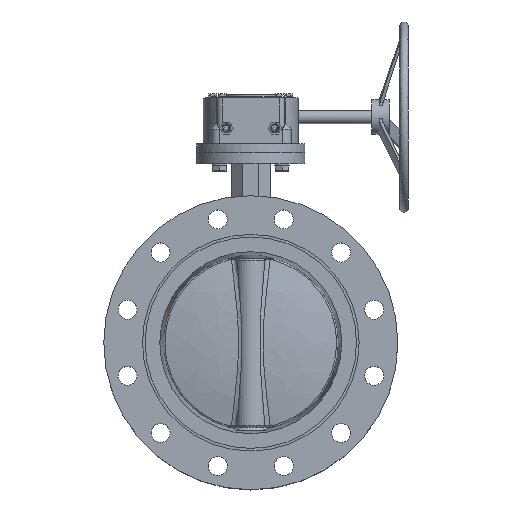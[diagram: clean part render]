
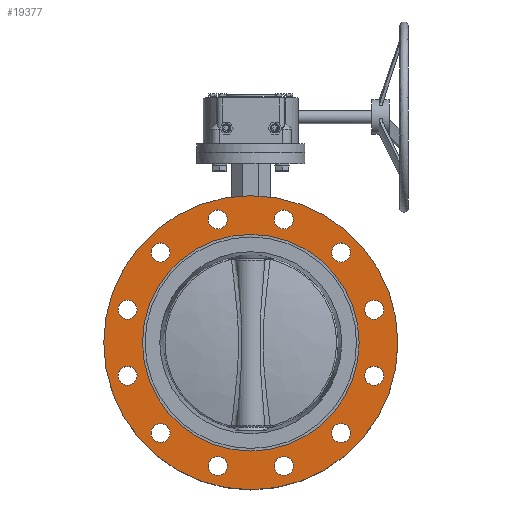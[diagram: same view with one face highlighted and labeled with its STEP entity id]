
A CAD part, top view. The second image highlights one B-rep face of the part: STEP entity #19377.
In plain terms, the highlighted planar face has unit normal (0, 0, -1).
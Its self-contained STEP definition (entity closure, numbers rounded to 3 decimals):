
#511 = DIRECTION ( 'NONE',  ( 0., 0., 1. ) ) ;
#539 = CARTESIAN_POINT ( 'NONE',  ( -38.176, 142.474, 73. ) ) ;
#810 = CARTESIAN_POINT ( 'NONE',  ( -131.474, -38.176, 73. ) ) ;
#1297 = ORIENTED_EDGE ( 'NONE', *, *, #7617, .T. ) ;
#1324 = VERTEX_POINT ( 'NONE', #10952 ) ;
#1932 = CARTESIAN_POINT ( 'NONE',  ( -125.2, 0., 73. ) ) ;
#2083 = CARTESIAN_POINT ( 'NONE',  ( 104.298, -104.298, 73. ) ) ;
#2394 = DIRECTION ( 'NONE',  ( 0., 0., 1. ) ) ;
#3494 = CARTESIAN_POINT ( 'NONE',  ( -131.474, 38.176, 73. ) ) ;
#4280 = AXIS2_PLACEMENT_3D ( 'NONE', #28784, #33764, #10045 ) ;
#4315 = EDGE_CURVE ( 'NONE', #25731, #25731, #42163, .T. ) ;
#5362 = EDGE_CURVE ( 'NONE', #33859, #33859, #45221, .T. ) ;
#5401 = EDGE_LOOP ( 'NONE', ( #58536 ) ) ;
#5441 = DIRECTION ( 'NONE',  ( 0., 0., -1. ) ) ;
#5495 = DIRECTION ( 'NONE',  ( 1., 0., 0. ) ) ;
#6267 = VERTEX_POINT ( 'NONE', #44359 ) ;
#7617 = EDGE_CURVE ( 'NONE', #21051, #21051, #35504, .T. ) ;
#8150 = ORIENTED_EDGE ( 'NONE', *, *, #34452, .T. ) ;
#8385 = AXIS2_PLACEMENT_3D ( 'NONE', #22316, #2394, #17328 ) ;
#8701 = ORIENTED_EDGE ( 'NONE', *, *, #4315, .T. ) ;
#9325 = AXIS2_PLACEMENT_3D ( 'NONE', #53982, #20563, #25543 ) ;
#9496 = FACE_BOUND ( 'NONE', #60210, .T. ) ;
#10045 = DIRECTION ( 'NONE',  ( -1., 0., 0. ) ) ;
#10119 = FACE_BOUND ( 'NONE', #34844, .T. ) ;
#10932 = EDGE_CURVE ( 'NONE', #19822, #19822, #22688, .T. ) ;
#10952 = CARTESIAN_POINT ( 'NONE',  ( 49.176, -142.474, 73. ) ) ;
#11578 = VERTEX_POINT ( 'NONE', #24688 ) ;
#13480 = ORIENTED_EDGE ( 'NONE', *, *, #41755, .T. ) ;
#13511 = CIRCLE ( 'NONE', #48434, 11. ) ;
#13700 = EDGE_LOOP ( 'NONE', ( #25893 ) ) ;
#13882 = FACE_OUTER_BOUND ( 'NONE', #18769, .T. ) ;
#13967 = DIRECTION ( 'NONE',  ( 1., 0., 0. ) ) ;
#14180 = FACE_BOUND ( 'NONE', #5401, .T. ) ;
#14238 = AXIS2_PLACEMENT_3D ( 'NONE', #57231, #37248, #57529 ) ;
#14644 = CIRCLE ( 'NONE', #57541, 11. ) ;
#15094 = FACE_BOUND ( 'NONE', #45602, .T. ) ;
#15124 = CARTESIAN_POINT ( 'NONE',  ( 153.474, 38.176, 73. ) ) ;
#15404 = AXIS2_PLACEMENT_3D ( 'NONE', #52608, #5441, #23246 ) ;
#15429 = ORIENTED_EDGE ( 'NONE', *, *, #43657, .T. ) ;
#16329 = CARTESIAN_POINT ( 'NONE',  ( -104.298, 104.298, 73. ) ) ;
#16592 = CARTESIAN_POINT ( 'NONE',  ( -27.176, 142.474, 73. ) ) ;
#16893 = VERTEX_POINT ( 'NONE', #16592 ) ;
#17328 = DIRECTION ( 'NONE',  ( -1., 0., 0. ) ) ;
#17677 = ORIENTED_EDGE ( 'NONE', *, *, #32645, .T. ) ;
#17801 = EDGE_LOOP ( 'NONE', ( #1297 ) ) ;
#18769 = EDGE_LOOP ( 'NONE', ( #53335 ) ) ;
#19377 = ADVANCED_FACE ( 'NONE', ( #57880, #38523, #52919, #38834, #23545, #10119, #14180, #43538, #15094, #9496, #46996, #47929, #13882, #33227 ), #19490, .T. ) ;
#19490 = PLANE ( 'NONE',  #15404 ) ;
#19822 = VERTEX_POINT ( 'NONE', #810 ) ;
#20018 = CARTESIAN_POINT ( 'NONE',  ( -93.298, 104.298, 73. ) ) ;
#20152 = DIRECTION ( 'NONE',  ( 0., 0., 1. ) ) ;
#20563 = DIRECTION ( 'NONE',  ( 0., 0., 1. ) ) ;
#21051 = VERTEX_POINT ( 'NONE', #40096 ) ;
#21107 = DIRECTION ( 'NONE',  ( 1., 0., 0. ) ) ;
#21161 = AXIS2_PLACEMENT_3D ( 'NONE', #40695, #55372, #50689 ) ;
#21223 = AXIS2_PLACEMENT_3D ( 'NONE', #31062, #21421, #21107 ) ;
#21299 = CARTESIAN_POINT ( 'NONE',  ( 153.474, -38.176, 73. ) ) ;
#21421 = DIRECTION ( 'NONE',  ( 0., 0., 1. ) ) ;
#21494 = EDGE_CURVE ( 'NONE', #36015, #36015, #13511, .T. ) ;
#22316 = CARTESIAN_POINT ( 'NONE',  ( 0., 0., 73. ) ) ;
#22688 = CIRCLE ( 'NONE', #38638, 11. ) ;
#22977 = CARTESIAN_POINT ( 'NONE',  ( -142.474, -38.176, 73. ) ) ;
#23243 = CIRCLE ( 'NONE', #36206, 11. ) ;
#23246 = DIRECTION ( 'NONE',  ( -1., 0., 0. ) ) ;
#23545 = FACE_BOUND ( 'NONE', #41964, .T. ) ;
#23569 = CARTESIAN_POINT ( 'NONE',  ( 104.298, 104.298, 73. ) ) ;
#23944 = CARTESIAN_POINT ( 'NONE',  ( -38.176, -142.474, 73. ) ) ;
#24688 = CARTESIAN_POINT ( 'NONE',  ( 49.176, 142.474, 73. ) ) ;
#25105 = ORIENTED_EDGE ( 'NONE', *, *, #21494, .T. ) ;
#25543 = DIRECTION ( 'NONE',  ( 1., 0., 0. ) ) ;
#25731 = VERTEX_POINT ( 'NONE', #53853 ) ;
#25893 = ORIENTED_EDGE ( 'NONE', *, *, #5362, .T. ) ;
#26031 = ORIENTED_EDGE ( 'NONE', *, *, #51680, .T. ) ;
#26135 = CIRCLE ( 'NONE', #61039, 11. ) ;
#26278 = VERTEX_POINT ( 'NONE', #60595 ) ;
#26295 = ORIENTED_EDGE ( 'NONE', *, *, #50552, .T. ) ;
#26843 = AXIS2_PLACEMENT_3D ( 'NONE', #16329, #54760, #35364 ) ;
#27313 = CIRCLE ( 'NONE', #8385, 125.2 ) ;
#28175 = CIRCLE ( 'NONE', #21223, 11. ) ;
#28279 = DIRECTION ( 'NONE',  ( 0., 0., 1. ) ) ;
#28602 = EDGE_CURVE ( 'NONE', #6267, #6267, #14644, .T. ) ;
#28784 = CARTESIAN_POINT ( 'NONE',  ( 0., 0., 73. ) ) ;
#29369 = VERTEX_POINT ( 'NONE', #20018 ) ;
#30346 = EDGE_LOOP ( 'NONE', ( #15429 ) ) ;
#30771 = CARTESIAN_POINT ( 'NONE',  ( 142.474, -38.176, 73. ) ) ;
#31062 = CARTESIAN_POINT ( 'NONE',  ( 38.176, 142.474, 73. ) ) ;
#31077 = DIRECTION ( 'NONE',  ( 0., 0., 1. ) ) ;
#32645 = EDGE_CURVE ( 'NONE', #29369, #29369, #42823, .T. ) ;
#32801 = EDGE_LOOP ( 'NONE', ( #51643 ) ) ;
#32995 = DIRECTION ( 'NONE',  ( 1., 0., 0. ) ) ;
#33227 = FACE_BOUND ( 'NONE', #51556, .T. ) ;
#33299 = DIRECTION ( 'NONE',  ( 0., 0., 1. ) ) ;
#33611 = DIRECTION ( 'NONE',  ( 0., 0., 1. ) ) ;
#33764 = DIRECTION ( 'NONE',  ( 0., 0., -1. ) ) ;
#33859 = VERTEX_POINT ( 'NONE', #15124 ) ;
#34452 = EDGE_CURVE ( 'NONE', #1324, #1324, #60686, .T. ) ;
#34844 = EDGE_LOOP ( 'NONE', ( #8701 ) ) ;
#35364 = DIRECTION ( 'NONE',  ( 1., 0., 0. ) ) ;
#35504 = CIRCLE ( 'NONE', #45506, 11. ) ;
#36015 = VERTEX_POINT ( 'NONE', #40415 ) ;
#36206 = AXIS2_PLACEMENT_3D ( 'NONE', #30771, #31077, #40482 ) ;
#36628 = EDGE_LOOP ( 'NONE', ( #17677 ) ) ;
#37248 = DIRECTION ( 'NONE',  ( 0., 0., 1. ) ) ;
#37326 = DIRECTION ( 'NONE',  ( 1., 0., 0. ) ) ;
#37675 = CARTESIAN_POINT ( 'NONE',  ( 38.176, -142.474, 73. ) ) ;
#38169 = EDGE_LOOP ( 'NONE', ( #26295 ) ) ;
#38523 = FACE_BOUND ( 'NONE', #30346, .T. ) ;
#38638 = AXIS2_PLACEMENT_3D ( 'NONE', #22977, #28279, #42050 ) ;
#38834 = FACE_BOUND ( 'NONE', #38169, .T. ) ;
#38958 = EDGE_CURVE ( 'NONE', #11578, #11578, #28175, .T. ) ;
#40096 = CARTESIAN_POINT ( 'NONE',  ( 115.298, 104.298, 73. ) ) ;
#40415 = CARTESIAN_POINT ( 'NONE',  ( 115.298, -104.298, 73. ) ) ;
#40482 = DIRECTION ( 'NONE',  ( 1., 0., 0. ) ) ;
#40695 = CARTESIAN_POINT ( 'NONE',  ( -142.474, 38.176, 73. ) ) ;
#41755 = EDGE_CURVE ( 'NONE', #48766, #48766, #27313, .T. ) ;
#41964 = EDGE_LOOP ( 'NONE', ( #53544 ) ) ;
#42050 = DIRECTION ( 'NONE',  ( 1., 0., 0. ) ) ;
#42163 = CIRCLE ( 'NONE', #14238, 11. ) ;
#42823 = CIRCLE ( 'NONE', #26843, 11. ) ;
#43538 = FACE_BOUND ( 'NONE', #57762, .T. ) ;
#43657 = EDGE_CURVE ( 'NONE', #16893, #16893, #26135, .T. ) ;
#44359 = CARTESIAN_POINT ( 'NONE',  ( -27.176, -142.474, 73. ) ) ;
#45221 = CIRCLE ( 'NONE', #9325, 11. ) ;
#45506 = AXIS2_PLACEMENT_3D ( 'NONE', #23569, #511, #37326 ) ;
#45602 = EDGE_LOOP ( 'NONE', ( #25105 ) ) ;
#46256 = VERTEX_POINT ( 'NONE', #21299 ) ;
#46996 = FACE_BOUND ( 'NONE', #13700, .T. ) ;
#47929 = FACE_BOUND ( 'NONE', #17801, .T. ) ;
#48434 = AXIS2_PLACEMENT_3D ( 'NONE', #2083, #48916, #53888 ) ;
#48766 = VERTEX_POINT ( 'NONE', #1932 ) ;
#48916 = DIRECTION ( 'NONE',  ( 0., 0., 1. ) ) ;
#50552 = EDGE_CURVE ( 'NONE', #54712, #54712, #55039, .T. ) ;
#50689 = DIRECTION ( 'NONE',  ( 1., 0., 0. ) ) ;
#50773 = EDGE_CURVE ( 'NONE', #26278, #26278, #57099, .T. ) ;
#51556 = EDGE_LOOP ( 'NONE', ( #13480 ) ) ;
#51643 = ORIENTED_EDGE ( 'NONE', *, *, #38958, .T. ) ;
#51680 = EDGE_CURVE ( 'NONE', #46256, #46256, #23243, .T. ) ;
#52608 = CARTESIAN_POINT ( 'NONE',  ( -125.2, 0., 73. ) ) ;
#52919 = FACE_BOUND ( 'NONE', #36628, .T. ) ;
#53335 = ORIENTED_EDGE ( 'NONE', *, *, #50773, .T. ) ;
#53544 = ORIENTED_EDGE ( 'NONE', *, *, #10932, .T. ) ;
#53853 = CARTESIAN_POINT ( 'NONE',  ( -93.298, -104.298, 73. ) ) ;
#53888 = DIRECTION ( 'NONE',  ( 1., 0., 0. ) ) ;
#53982 = CARTESIAN_POINT ( 'NONE',  ( 142.474, 38.176, 73. ) ) ;
#54712 = VERTEX_POINT ( 'NONE', #3494 ) ;
#54760 = DIRECTION ( 'NONE',  ( 0., 0., 1. ) ) ;
#55039 = CIRCLE ( 'NONE', #21161, 11. ) ;
#55372 = DIRECTION ( 'NONE',  ( 0., 0., 1. ) ) ;
#57099 = CIRCLE ( 'NONE', #4280, 170. ) ;
#57231 = CARTESIAN_POINT ( 'NONE',  ( -104.298, -104.298, 73. ) ) ;
#57529 = DIRECTION ( 'NONE',  ( 1., 0., 0. ) ) ;
#57541 = AXIS2_PLACEMENT_3D ( 'NONE', #23944, #33611, #13967 ) ;
#57762 = EDGE_LOOP ( 'NONE', ( #8150 ) ) ;
#57880 = FACE_BOUND ( 'NONE', #32801, .T. ) ;
#58536 = ORIENTED_EDGE ( 'NONE', *, *, #28602, .T. ) ;
#58682 = AXIS2_PLACEMENT_3D ( 'NONE', #37675, #33299, #32995 ) ;
#60210 = EDGE_LOOP ( 'NONE', ( #26031 ) ) ;
#60595 = CARTESIAN_POINT ( 'NONE',  ( -170., 0., 73. ) ) ;
#60686 = CIRCLE ( 'NONE', #58682, 11. ) ;
#61039 = AXIS2_PLACEMENT_3D ( 'NONE', #539, #20152, #5495 ) ;
